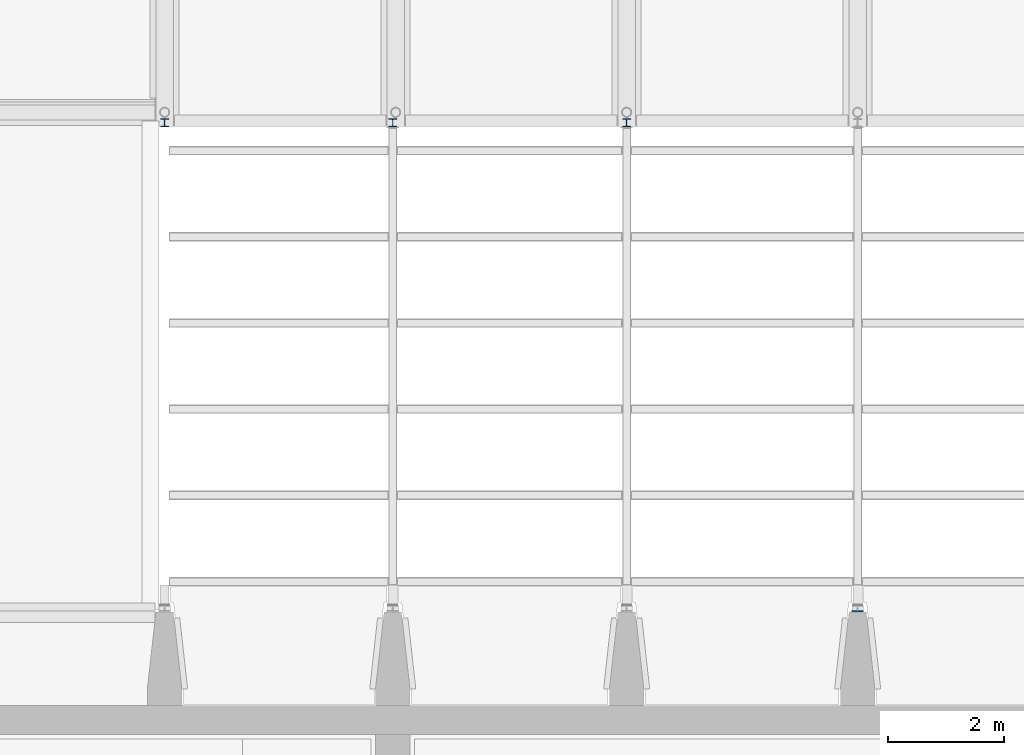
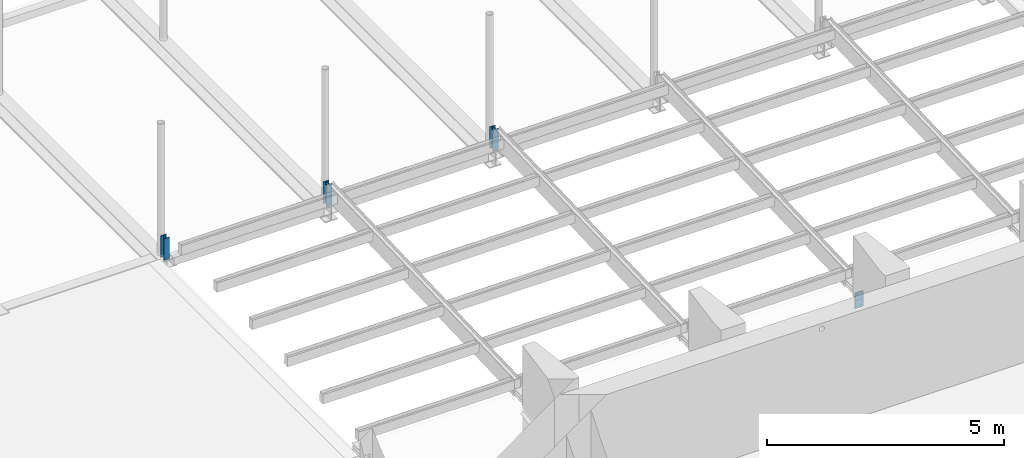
# One storey, part 9 of 31: 4 columns.
"""IFC2X3 building model written with IfcOpenShell, lengths in millimetres."""

from ifc_helpers import new_model, entity, si_unit, converted_unit, derived_unit, direction, frame, frame_2d, origin, origin_2d_with_axis, place, context, subcontext, project, spatial, rectangle, circle, i_section, extrude, boolean, source, transform, mapped, material, type_object, type_shapes, element, save


model = new_model("IFC2X3")

# Units and contexts
model_context = context("Model", 3, precision=0.01, world=origin(), true_north=direction((6.12303176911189e-17, 1.0)))
body_context = subcontext(model_context, "Body", "Model", "MODEL_VIEW")
ifc_project = project(units=[si_unit("LENGTHUNIT", "METRE", prefix="MILLI"), si_unit("AREAUNIT", "SQUARE_METRE"), si_unit("VOLUMEUNIT", "CUBIC_METRE"), converted_unit("PLANEANGLEUNIT", "DEGREE", entity("IfcRatioMeasure", 0.0174532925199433), si_unit("PLANEANGLEUNIT", "RADIAN"), dimensions=[0, 0, 0, 0, 0, 0, 0]), si_unit("MASSUNIT", "GRAM", prefix="KILO"), derived_unit("MASSDENSITYUNIT", [(si_unit("MASSUNIT", "GRAM", prefix="KILO"), 1), (si_unit("LENGTHUNIT", "METRE"), -3)]), si_unit("TIMEUNIT", "SECOND"), si_unit("FREQUENCYUNIT", "HERTZ"), si_unit("THERMODYNAMICTEMPERATUREUNIT", "DEGREE_CELSIUS"), derived_unit("THERMALTRANSMITTANCEUNIT", [(si_unit("MASSUNIT", "GRAM", prefix="KILO"), 1), (si_unit("THERMODYNAMICTEMPERATUREUNIT", "KELVIN"), -1), (si_unit("TIMEUNIT", "SECOND"), -3)]), derived_unit("VOLUMETRICFLOWRATEUNIT", [(si_unit("LENGTHUNIT", "METRE"), 3), (si_unit("TIMEUNIT", "SECOND"), -1)]), si_unit("ELECTRICCURRENTUNIT", "AMPERE"), si_unit("ELECTRICVOLTAGEUNIT", "VOLT"), si_unit("POWERUNIT", "WATT"), si_unit("FORCEUNIT", "NEWTON", prefix="KILO"), si_unit("ILLUMINANCEUNIT", "LUX"), si_unit("LUMINOUSFLUXUNIT", "LUMEN"), si_unit("LUMINOUSINTENSITYUNIT", "CANDELA"), derived_unit("USERDEFINED", [(si_unit("MASSUNIT", "GRAM", prefix="KILO"), -1), (si_unit("LENGTHUNIT", "METRE"), -2), (si_unit("TIMEUNIT", "SECOND"), 3), (si_unit("LUMINOUSFLUXUNIT", "LUMEN"), 1)]), derived_unit("LINEARVELOCITYUNIT", [(si_unit("LENGTHUNIT", "METRE"), 1), (si_unit("TIMEUNIT", "SECOND"), -1)]), si_unit("PRESSUREUNIT", "PASCAL"), derived_unit("USERDEFINED", [(si_unit("LENGTHUNIT", "METRE"), -2), (si_unit("MASSUNIT", "GRAM", prefix="KILO"), 1), (si_unit("TIMEUNIT", "SECOND"), -2)])], contexts=[model_context])

# Site, building, storey
site_placement = place(None, origin())
site = spatial("IfcSite", under=ifc_project, at=site_placement, Name="Default", CompositionType="ELEMENT")
building_placement = place(site_placement, origin())
building = spatial("IfcBuilding", under=site, at=building_placement, Name="niet gebruiken", CompositionType="ELEMENT")
storey_placement = place(building_placement, frame((0.0, 0.0, 12000.0)))
storey = spatial("IfcBuildingStorey", under=building, at=storey_placement, Name="03 derde verdieping", CompositionType="ELEMENT", Elevation=12000.0)

# Columns
ifc_material = material(Name="NLRS_h2_staal")
column_type_1 = type_object("IfcColumnType", Name="kolom HEB 140", PredefinedType="COLUMN", material=ifc_material)
shared_shape_1 = source(origin(), body_context, "Body", "SweptSolid", [
    extrude(i_section(OverallWidth=140.0, OverallDepth=139.999999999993, WebThickness=7.00000000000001, FlangeThickness=12.0, FilletRadius=12.0, at=frame_2d((-7.105427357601e-15, 1.79767312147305e-12), x_axis=(0.0, 1.0))), frame((0.0, 0.0, 13355.0), z_axis=(0.0, 0.0, 1.0), x_axis=(0.0, -1.0, 0.0)), (0.0, 0.0, 1.0), 554.999999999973),
])
type_shapes(column_type_1, [shared_shape_1])
for number, where, name in (
    (1, (139750.0, 43320.0, -12000.0), "NLRS_28.11_SCO_TLB_stalen kolom HEB_gen:kolom HEB 140"),
    (2, (135700.0, 43320.0, -12000.0), "NLRS_28.11_SCO_TLB_stalen kolom HEB_gen:kolom HEB 140"),
    (3, (131749.99954004, 43320.0, -12000.0), "NLRS_28.11_SCO_TLB_stalen kolom HEB_gen:kolom HEB 140"),
):
    element("IfcColumn", number, at=place(storey_placement, frame(where)), inside=storey, type_object=column_type_1, material=ifc_material, Name=name, ObjectType="kolom HEB 140", context=body_context, shape_type="MappedRepresentation", body=[
        mapped(shared_shape_1, transform((0.0, 0.0, 0.0), scale=1.0)),
    ])
column_type_2 = type_object("IfcColumnType", Name="kolom stripstaal RECT_200x20", PredefinedType="COLUMN", material=ifc_material)
shared_shape_2 = source(origin(), body_context, "Body", "CSG", [
    boolean("DIFFERENCE", boolean("DIFFERENCE", boolean("DIFFERENCE", boolean("DIFFERENCE", boolean("DIFFERENCE", boolean("DIFFERENCE", extrude(rectangle(XDim=19.9999999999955, YDim=200.000000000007, at=frame_2d((2.16626716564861e-12, 0.0), x_axis=(1.0, 0.0))), frame((143750.0, 34860.0, 13015.0), z_axis=(0.0, 0.0, 1.0), x_axis=(0.0, -1.0, 0.0)), (0.0, 0.0, 1.0), 400.0), extrude(circle(Radius=9.0, at=origin_2d_with_axis()), frame((143800.0, 34870.0, 13065.0), z_axis=(0.0, -1.0, 0.0), x_axis=(1.0, 0.0, 0.0)), (0.0, 0.0, 1.0), 19.9999999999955)), extrude(circle(Radius=9.0, at=origin_2d_with_axis()), frame((143700.0, 34870.0, 13065.0), z_axis=(0.0, -1.0, 0.0), x_axis=(1.0, 0.0, 0.0)), (0.0, 0.0, 1.0), 19.9999999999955)), extrude(circle(Radius=9.0, at=origin_2d_with_axis()), frame((143800.0, 34870.0, 13215.0), z_axis=(0.0, -1.0, 0.0), x_axis=(1.0, 0.0, 0.0)), (0.0, 0.0, 1.0), 19.9999999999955)), extrude(circle(Radius=9.0, at=origin_2d_with_axis()), frame((143700.0, 34870.0, 13215.0), z_axis=(0.0, -1.0, 0.0), x_axis=(1.0, 0.0, 0.0)), (0.0, 0.0, 1.0), 19.9999999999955)), extrude(circle(Radius=9.0, at=origin_2d_with_axis()), frame((143800.0, 34870.0, 13365.0), z_axis=(0.0, -1.0, 0.0), x_axis=(1.0, 0.0, 0.0)), (0.0, 0.0, 1.0), 19.9999999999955)), extrude(circle(Radius=9.0, at=origin_2d_with_axis()), frame((143700.0, 34850.0, 13365.0), z_axis=(0.0, 1.0, 0.0), x_axis=(1.0, 0.0, 0.0)), (0.0, 0.0, 1.0), 19.9999999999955)),
])
type_shapes(column_type_2, [shared_shape_2])
column_placement = place(storey_placement, frame((0.0, 0.0, -12000.0)))
element("IfcColumn", 4, at=column_placement, inside=storey, type_object=column_type_2, material=ifc_material, Name="NLRS_28.11_SCO_TLB_stalen kolom stripstaal_gen:kolom stripstaal RECT_200x20", ObjectType="kolom stripstaal RECT_200x20", context=body_context, shape_type="MappedRepresentation", body=[
    mapped(shared_shape_2, transform((0.0, 0.0, 0.0), scale=1.0)),
])

save(model, "model.ifc")
